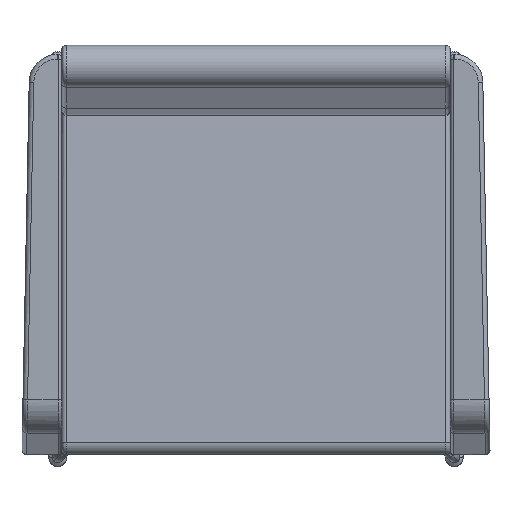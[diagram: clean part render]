
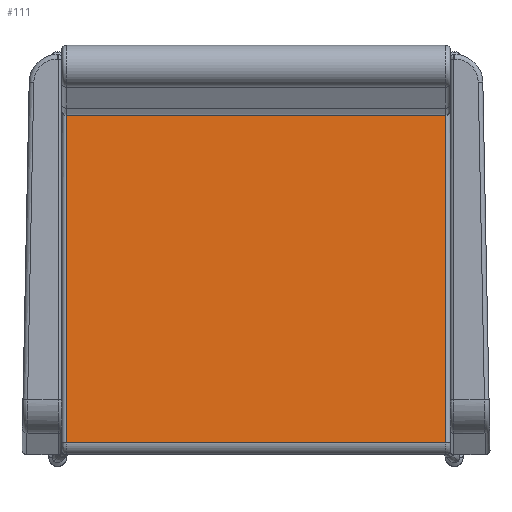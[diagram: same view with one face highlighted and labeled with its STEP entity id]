
A CAD part, top view. The second image highlights one B-rep face of the part: STEP entity #111.
In plain terms, the highlighted free-form (B-spline) face has degree [3, 1] with [4, 2] control points.
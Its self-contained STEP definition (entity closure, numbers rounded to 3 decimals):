
#111=ADVANCED_FACE('',(#270),#2149,.T.);
#270=FACE_OUTER_BOUND('',#429,.T.);
#429=EDGE_LOOP('',(#782,#783,#784,#785));
#782=ORIENTED_EDGE('',*,*,#1356,.T.);
#783=ORIENTED_EDGE('',*,*,#1319,.T.);
#784=ORIENTED_EDGE('',*,*,#1357,.F.);
#785=ORIENTED_EDGE('',*,*,#1318,.F.);
#1318=EDGE_CURVE('',#1951,#1952,#1700,.T.);
#1319=EDGE_CURVE('',#1953,#1954,#1701,.T.);
#1356=EDGE_CURVE('',#1951,#1953,#1732,.T.);
#1357=EDGE_CURVE('',#1952,#1954,#1733,.T.);
#1700=(
BOUNDED_CURVE()
B_SPLINE_CURVE(1,(#3862,#3863),.UNSPECIFIED.,.F.,.F.)
B_SPLINE_CURVE_WITH_KNOTS((2,2),(6.,504.),.UNSPECIFIED.)
CURVE()
GEOMETRIC_REPRESENTATION_ITEM()
RATIONAL_B_SPLINE_CURVE((1.,1.))
REPRESENTATION_ITEM('')
);
#1701=(
BOUNDED_CURVE()
B_SPLINE_CURVE(1,(#3864,#3865),.UNSPECIFIED.,.F.,.F.)
B_SPLINE_CURVE_WITH_KNOTS((2,2),(6.,504.),.UNSPECIFIED.)
CURVE()
GEOMETRIC_REPRESENTATION_ITEM()
RATIONAL_B_SPLINE_CURVE((1.,1.))
REPRESENTATION_ITEM('')
);
#1732=(
BOUNDED_CURVE()
B_SPLINE_CURVE(1,(#3997,#3998),.UNSPECIFIED.,.F.,.F.)
B_SPLINE_CURVE_WITH_KNOTS((2,2),(0.,432.642),
 .UNSPECIFIED.)
CURVE()
GEOMETRIC_REPRESENTATION_ITEM()
RATIONAL_B_SPLINE_CURVE((1.,1.))
REPRESENTATION_ITEM('')
);
#1733=(
BOUNDED_CURVE()
B_SPLINE_CURVE(1,(#3999,#4000),.UNSPECIFIED.,.F.,.F.)
B_SPLINE_CURVE_WITH_KNOTS((2,2),(0.,432.642),
 .UNSPECIFIED.)
CURVE()
GEOMETRIC_REPRESENTATION_ITEM()
RATIONAL_B_SPLINE_CURVE((1.,1.))
REPRESENTATION_ITEM('')
);
#1951=VERTEX_POINT('',#3782);
#1952=VERTEX_POINT('',#3783);
#1953=VERTEX_POINT('',#3784);
#1954=VERTEX_POINT('',#3785);
#2149=(
BOUNDED_SURFACE()
B_SPLINE_SURFACE(3,1,((#3392,#3393),(#3394,#3395),(#3396,#3397),(#3398,
#3399)),.UNSPECIFIED.,.F.,.F.,.F.)
B_SPLINE_SURFACE_WITH_KNOTS((4,4),(2,2),(-1381.837,-949.195),
(0.,510.),.UNSPECIFIED.)
GEOMETRIC_REPRESENTATION_ITEM()
RATIONAL_B_SPLINE_SURFACE(((1.,1.),(1.,1.),(1.,1.),(1.,1.)))
REPRESENTATION_ITEM('')
SURFACE()
);
#3392=CARTESIAN_POINT('',(-255.,190.787,428.017));
#3393=CARTESIAN_POINT('',(255.,190.787,428.017));
#3394=CARTESIAN_POINT('',(-255.,46.739,434.942));
#3395=CARTESIAN_POINT('',(255.,46.739,434.942));
#3396=CARTESIAN_POINT('',(-255.,-97.308,441.867));
#3397=CARTESIAN_POINT('',(255.,-97.308,441.867));
#3398=CARTESIAN_POINT('',(-255.,-241.356,448.793));
#3399=CARTESIAN_POINT('',(255.,-241.356,448.793));
#3782=CARTESIAN_POINT('',(-249.,190.787,428.017));
#3783=CARTESIAN_POINT('',(249.,190.787,428.017));
#3784=CARTESIAN_POINT('',(-249.,-241.356,448.793));
#3785=CARTESIAN_POINT('',(249.,-241.356,448.793));
#3862=CARTESIAN_POINT('',(-249.,190.787,428.017));
#3863=CARTESIAN_POINT('',(249.,190.787,428.017));
#3864=CARTESIAN_POINT('',(-249.,-241.356,448.793));
#3865=CARTESIAN_POINT('',(249.,-241.356,448.793));
#3997=CARTESIAN_POINT('',(-249.,190.787,428.017));
#3998=CARTESIAN_POINT('',(-249.,-241.356,448.793));
#3999=CARTESIAN_POINT('',(249.,190.787,428.017));
#4000=CARTESIAN_POINT('',(249.,-241.356,448.793));
